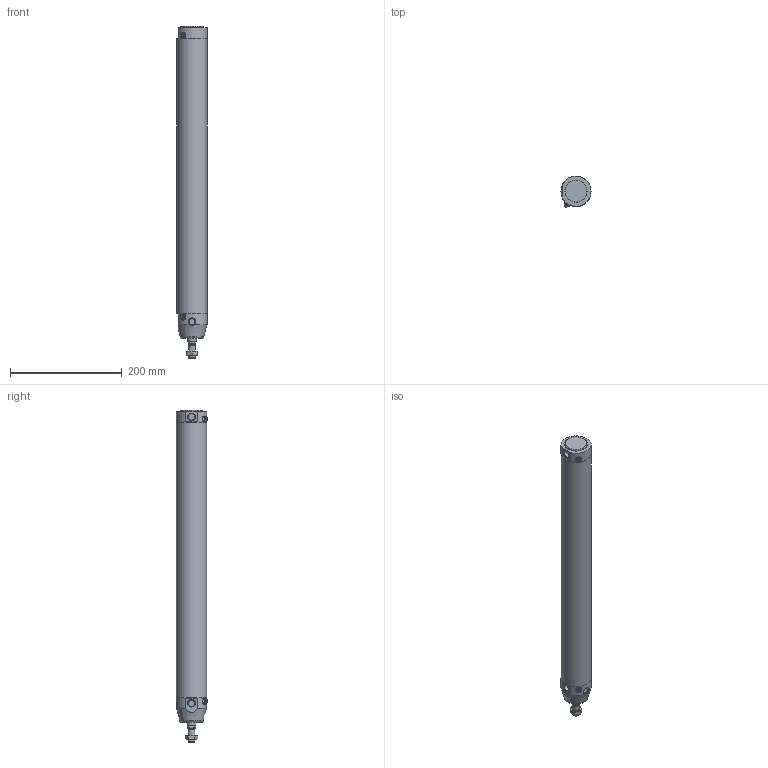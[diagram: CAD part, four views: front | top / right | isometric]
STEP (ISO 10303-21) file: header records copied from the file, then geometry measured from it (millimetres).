
FILE_DESCRIPTION(/* description */ (''),/* implementation_level */ '2;1');
FILE_NAME(/* name */ 'I:\Area Tecnica\Documenti\A-Manieri\_Inventor\12X\12X#E_###_####_#_#\12XBE_050_0450_#_#.stp',/* time_stamp */ '2015-05-08T13:58:27+02:00',/* author */ ('maniean1'),/* organization */ ('Pneumax S.p.A.'),/* preprocessor_version */ 'ST-DEVELOPER v15.2',/* originating_system */ 'Autodesk Inventor 2014',/* authorisation */ '');
FILE_SCHEMA (('AUTOMOTIVE_DESIGN { 1 0 10303 214 3 1 1 }'));
Length unit declared in the file: millimetre
Products named in the file (6): C1250_619-0450; 12X50_623; S12X50_0450; 12X_50_11; 12X50_612; 12XBE_050_0450_#_#
Bounding box: 54 x 55.88 x 595 mm (x, y, z)
Volume: 476914.5 mm3; surface area: 221546.6 mm2
Topology: 5 solids, 5 shells, 83 faces, 174 edges, 112 vertices
Faces by surface type: plane 45, cylinder 22, cone 13, torus 3
Full cylindrical faces by diameter (mm): 5 x2, 10.2 x1, 10.9 x2, 11 x2, 11.4 x2, 12 x2, 14 x1, 14.1 x2, 15.6 x1, 16 x1, 40 x1, 50 x2, 54 x3
Entity records: 2203 total; most frequent: CARTESIAN_POINT 508, DIRECTION 359, ORIENTED_EDGE 254, AXIS2_PLACEMENT_3D 161, EDGE_LOOP 136, EDGE_CURVE 127, VERTEX_POINT 101, ADVANCED_FACE 83
